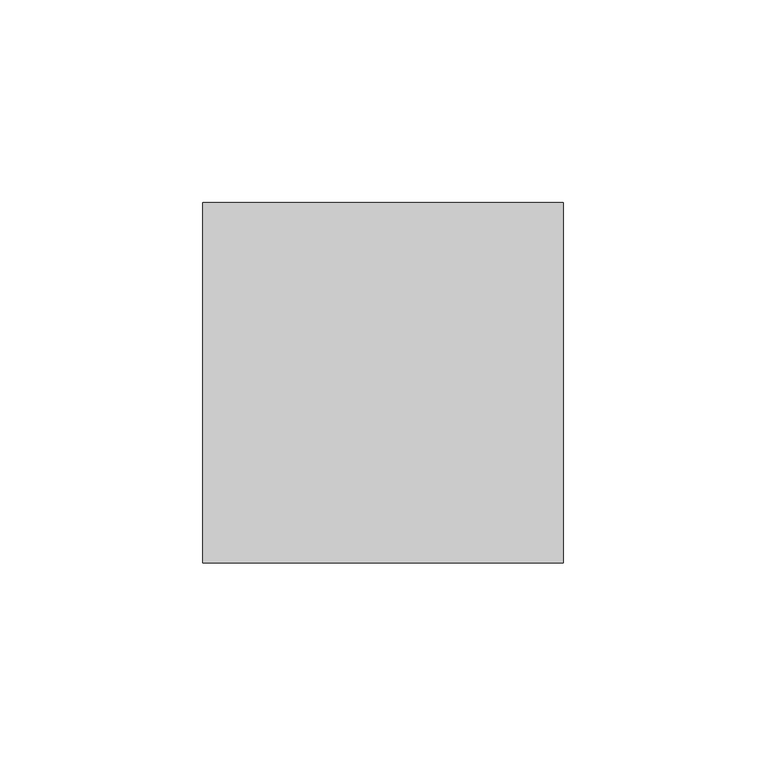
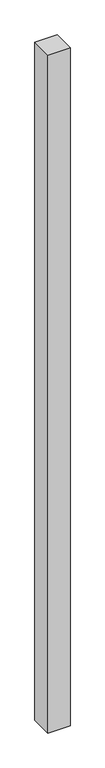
"""IFC4 building model written with IfcOpenShell, lengths in millimetres: column geometry, Trus Joist - TimberStrand LSL - Post Column : TimberStrand® 1.3E – 3 1/2 x 3 1/2”."""

from ifc_helpers import new_model, si_unit, frame, origin, place, context, project, spatial, polyline, outline, extrude, source, transform, mapped, element, save


def column_a178d7d2(model_context):
    return source(origin(), model_context, "Body", "SweptSolid", [
        extrude(outline(polyline([(44.45, 44.45), (44.45, -44.45), (-44.45, -44.45), (-44.45, 44.45), (44.45, 44.45)])), frame((0.0, 0.0, -304.8), z_axis=(0.0, 0.0, 1.0), x_axis=(1.0, 0.0, 0.0)), (0.0, 0.0, 1.0), 2857.5),
    ])


if __name__ == "__main__":
    model = new_model("IFC4")
    model_context = context("Model", 3, world=origin())
    ifc_project = project(units=[si_unit("LENGTHUNIT", "METRE", prefix="MILLI")], contexts=[model_context])
    site = spatial("IfcSite", under=ifc_project)
    building = spatial("IfcBuilding", under=site)
    placement = place(None, origin())
    column_shape = column_a178d7d2(model_context)
    element("IfcColumn", 1, ObjectType="Trus Joist - TimberStrand LSL - Post Column : TimberStrand® 1.3E – 3 1/2 x 3 1/2”", at=placement, inside=building, context=model_context, shape_type="MappedRepresentation", body=[
        mapped(column_shape, transform((0.0, 0.0, 0.0), x_axis=(1.0, 0.0, 0.0), y_axis=(0.0, 1.0, 0.0), z_axis=(0.0, 0.0, 1.0))),
    ])
    save(model, "model.ifc")
